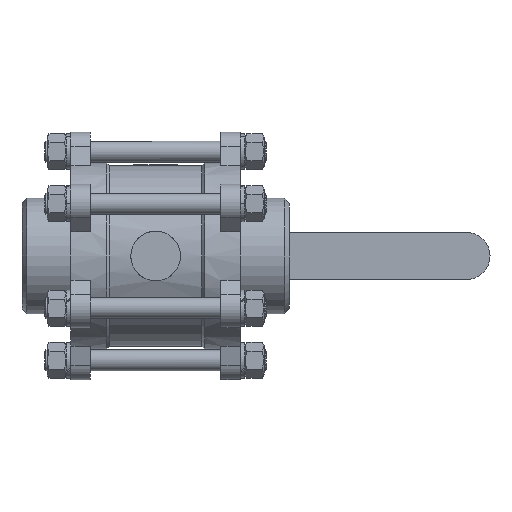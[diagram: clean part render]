
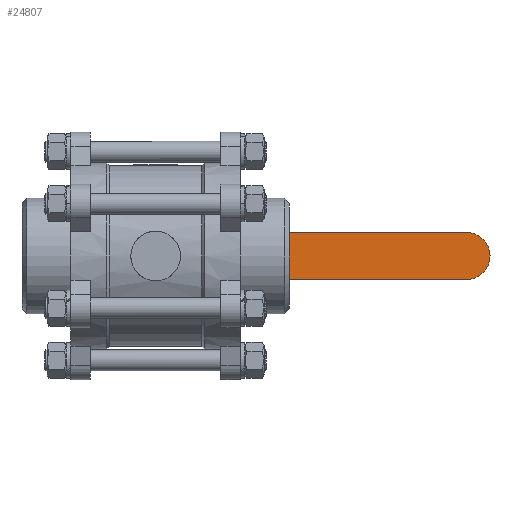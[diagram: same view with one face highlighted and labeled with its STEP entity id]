
A CAD part, front view. The second image highlights one B-rep face of the part: STEP entity #24807.
In plain terms, the highlighted planar face has unit normal (0, -1, 0).
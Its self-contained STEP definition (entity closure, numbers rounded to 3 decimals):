
#576=PLANE('',#26326);
#3278=FACE_OUTER_BOUND('',#4628,.T.);
#4628=EDGE_LOOP('',(#17723,#17724,#17725,#17726));
#6228=CIRCLE('',#26327,18.);
#7246=LINE('',#35987,#9287);
#7247=LINE('',#35989,#9288);
#7248=LINE('',#35990,#9289);
#9287=VECTOR('',#28983,10.);
#9288=VECTOR('',#28984,10.);
#9289=VECTOR('',#28985,10.);
#11463=VERTEX_POINT('',#35983);
#11464=VERTEX_POINT('',#35984);
#11465=VERTEX_POINT('',#35986);
#11466=VERTEX_POINT('',#35988);
#13912=EDGE_CURVE('',#11463,#11464,#6228,.T.);
#13913=EDGE_CURVE('',#11465,#11463,#7246,.T.);
#13914=EDGE_CURVE('',#11465,#11466,#7247,.T.);
#13915=EDGE_CURVE('',#11466,#11464,#7248,.T.);
#17723=ORIENTED_EDGE('',*,*,#13912,.F.);
#17724=ORIENTED_EDGE('',*,*,#13913,.F.);
#17725=ORIENTED_EDGE('',*,*,#13914,.T.);
#17726=ORIENTED_EDGE('',*,*,#13915,.T.);
#24807=ADVANCED_FACE('',(#3278),#576,.T.);
#26326=AXIS2_PLACEMENT_3D('',#35982,#28979,#28980);
#26327=AXIS2_PLACEMENT_3D('',#35985,#28981,#28982);
#28979=DIRECTION('center_axis',(0.,-1.,0.));
#28980=DIRECTION('ref_axis',(0.,0.,
-1.));
#28981=DIRECTION('center_axis',(0.,1.,0.));
#28982=DIRECTION('ref_axis',(0.707,0.,-0.707));
#28983=DIRECTION('',(1.,0.,0.));
#28984=DIRECTION('',(0.,0.,-1.));
#28985=DIRECTION('',(1.,0.,0.));
#35982=CARTESIAN_POINT('Origin',(45.348,289.124,18.));
#35983=CARTESIAN_POINT('',(197.348,289.124,18.));
#35984=CARTESIAN_POINT('',(197.348,289.124,-18.));
#35985=CARTESIAN_POINT('Origin',(197.348,289.124,0.));
#35986=CARTESIAN_POINT('',(45.348,289.124,18.));
#35987=CARTESIAN_POINT('',(45.348,289.124,18.));
#35988=CARTESIAN_POINT('',(45.348,289.124,-18.));
#35989=CARTESIAN_POINT('',(45.348,289.124,18.));
#35990=CARTESIAN_POINT('',(45.348,289.124,-18.));
